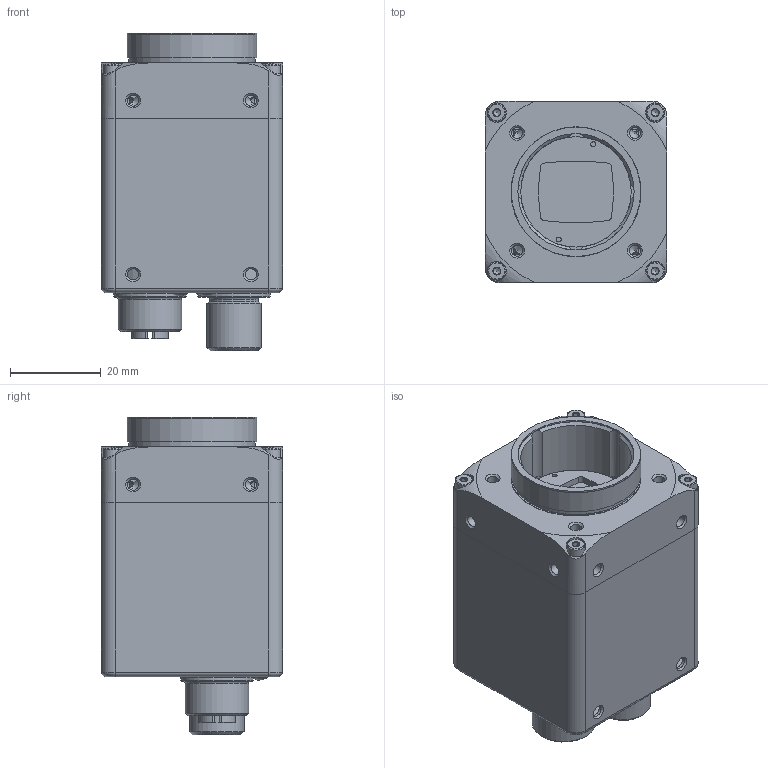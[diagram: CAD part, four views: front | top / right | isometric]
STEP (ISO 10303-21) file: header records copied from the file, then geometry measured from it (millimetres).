
FILE_DESCRIPTION(/* description */ ('D0001001010187'),/* implementation_level */ '2;1');
FILE_NAME(/* name */ 'D0001010187-11702871_VCXG-127M.I',/* time_stamp */ '2021-08-06T07:46:30+02:00',/* author */ (''),/* organization */ ('Baumer'),/* preprocessor_version */ 'ST-DEVELOPER v16.7',/* originating_system */ 'Solid Edge',/* authorisation */ 'Unknown');
FILE_SCHEMA (('AUTOMOTIVE_DESIGN {1 0 10303 214 3 1 1}'));
Length unit declared in the file: millimetre
Products named in the file (15): D0001010187-11702871_VCXG-127M.I; 11192656_Volumenmodell; 11169717; 11169712; 11149118; LGA230_20.1X16.9_292000; 11169715_Volumenmodell; Schraube xDIN912-ZK-I6K-M2 x 14-A2; 11035909; 11096517; 11096515; 11036870; 11183759_Volumenmodell; M12-BU-8S-PIP_1920000; M12-ST-12S-A-PIP_2130000
Assembly tree (18 placements, depth 2):
  D0001010187-11702871_VCXG-127M.I
    11192656_Volumenmodell
    11169717
    11169712
    11149118
    LGA230_20.1X16.9_292000
    11169715_Volumenmodell
    Schraube xDIN912-ZK-I6K-M2 x 14-A2  x4
    11035909
    11096517
    11096515
    11036870  x2
    11183759_Volumenmodell
    M12-BU-8S-PIP_1920000
    M12-ST-12S-A-PIP_2130000
Bounding box: 40 x 40 x 70.25 mm (x, y, z)
Volume: 26283 mm3; surface area: 32674.5 mm2
Topology: 19 solids, 19 shells, 1753 faces, 4238 edges, 2848 vertices
Faces by surface type: plane 849, cylinder 645, torus 96, cone 83, bspline 44, sphere 36
Full cylindrical faces by diameter (mm): 0.217 x2, 0.6 x238, 0.63 x12, 0.7 x8, 0.75 x1, 0.8 x8, 0.85 x1, 1 x3, 1.1 x14, 1.24 x8, 2 x6, 2.4 x4, 2.459 x26, 2.8 x2, 2.92 x2, 3.4 x2, 3.98 x4, 8 x2, 8.25 x1, 8.3 x1, 8.4 x1, 8.9 x1, 9 x1, 9.3 x2, 9.4 x1, 10 x1, 10.2 x1, 10.75 x1, 11 x1, 12 x3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
Entity records: 58832 total; most frequent: CARTESIAN_POINT 11779, DIRECTION 7530, ORIENTED_EDGE 6370, EDGE_CURVE 3185, AXIS2_PLACEMENT_3D 3055, FACE_BOUND 2561, EDGE_LOOP 2556, VERTEX_POINT 2368
